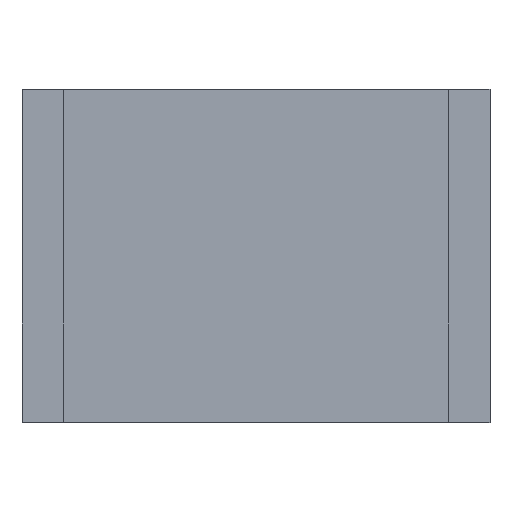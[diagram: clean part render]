
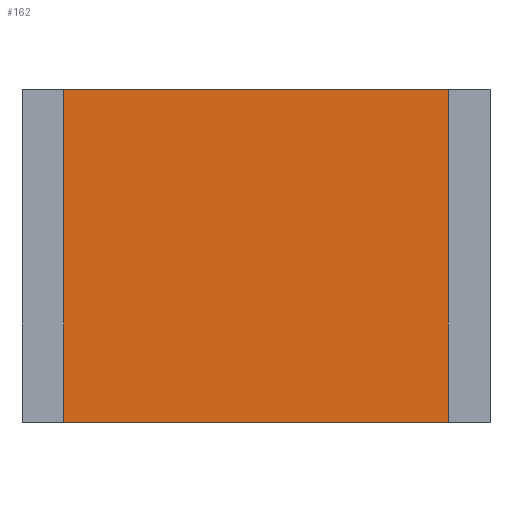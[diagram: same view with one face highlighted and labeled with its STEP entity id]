
A CAD part, top view. The second image highlights one B-rep face of the part: STEP entity #162.
In plain terms, the highlighted planar face has unit normal (0, 0, 1).
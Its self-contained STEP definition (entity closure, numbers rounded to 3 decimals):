
#68=CARTESIAN_POINT('',(-2.05,1.6,1.77));
#69=VERTEX_POINT('',#68);
#70=CARTESIAN_POINT('',(-2.05,-1.6,1.77));
#71=VERTEX_POINT('',#70);
#72=CARTESIAN_POINT('',(-2.05,1.6,1.77));
#73=CARTESIAN_POINT('',(-2.05,-1.6,1.77));
#74=B_SPLINE_CURVE_WITH_KNOTS('',1,(#72,#73),.UNSPECIFIED.,.F.,.F.,(2,2),(0.,1.),.UNSPECIFIED.);
#75=EDGE_CURVE('',#69,#71,#74,.T.);
#96=CARTESIAN_POINT('',(2.05,-1.6,1.77));
#97=VERTEX_POINT('',#96);
#98=CARTESIAN_POINT('',(2.05,-1.6,1.77));
#99=CARTESIAN_POINT('',(-2.05,-1.6,1.77));
#100=B_SPLINE_CURVE_WITH_KNOTS('',1,(#98,#99),.UNSPECIFIED.,.F.,.F.,(2,2),(0.,1.),.UNSPECIFIED.);
#101=EDGE_CURVE('',#97,#71,#100,.T.);
#118=CARTESIAN_POINT('',(2.05,1.6,1.77));
#119=VERTEX_POINT('',#118);
#120=CARTESIAN_POINT('',(-2.05,1.6,1.77));
#121=CARTESIAN_POINT('',(2.05,1.6,1.77));
#122=B_SPLINE_CURVE_WITH_KNOTS('',1,(#120,#121),.UNSPECIFIED.,.F.,.F.,(2,2),(0.,1.),.UNSPECIFIED.);
#123=EDGE_CURVE('',#69,#119,#122,.T.);
#140=CARTESIAN_POINT('',(2.05,1.6,1.77));
#141=CARTESIAN_POINT('',(2.05,-1.6,1.77));
#142=B_SPLINE_CURVE_WITH_KNOTS('',1,(#140,#141),.UNSPECIFIED.,.F.,.F.,(2,2),(0.,1.),.UNSPECIFIED.);
#143=EDGE_CURVE('',#119,#97,#142,.T.);
#151=CARTESIAN_POINT('',(0.,0.,1.77));
#152=DIRECTION('',(0.,0.,1.));
#153=DIRECTION('',(0.788,0.615,0.));
#154=AXIS2_PLACEMENT_3D('',#151,#152,#153);
#155=PLANE('',#154);
#156=ORIENTED_EDGE('',*,*,#75,.T.);
#157=ORIENTED_EDGE('',*,*,#101,.F.);
#158=ORIENTED_EDGE('',*,*,#143,.F.);
#159=ORIENTED_EDGE('',*,*,#123,.F.);
#160=EDGE_LOOP('',(#156,#157,#158,#159));
#161=FACE_BOUND('',#160,.T.);
#162=ADVANCED_FACE(' DE      199',(#161),#155,.T.);
